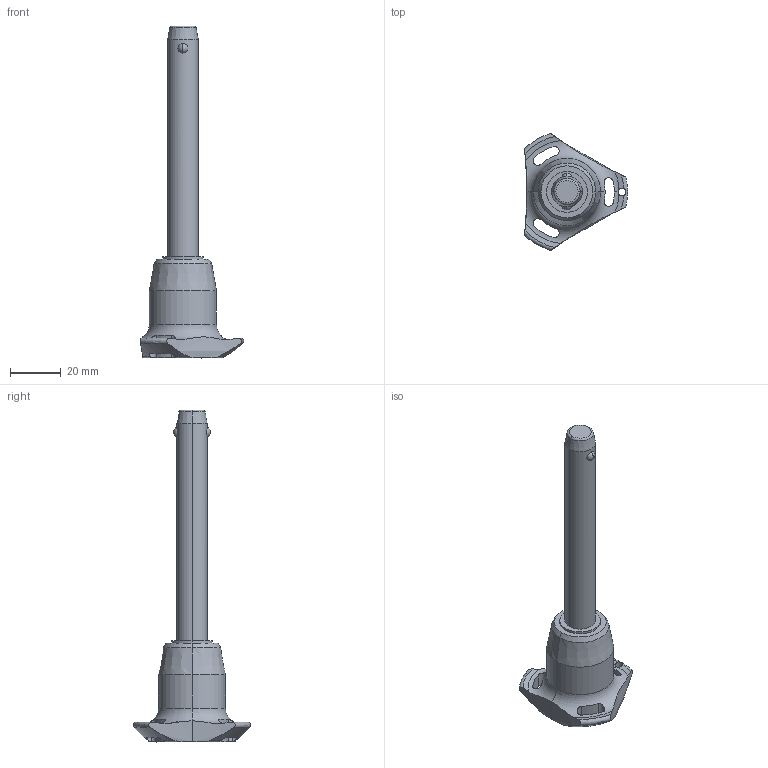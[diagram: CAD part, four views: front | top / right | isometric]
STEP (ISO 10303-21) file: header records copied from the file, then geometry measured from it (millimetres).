
FILE_DESCRIPTION (( 'STEP AP203' ), '1' );
FILE_NAME ('QR1724.M12-080-S.step', '2025-11-12T12:59:27', ( '' ), ( '' ), 'SwSTEP 2.0', 'SolidWorks 2019', '' );
FILE_SCHEMA (( 'CONFIG_CONTROL_DESIGN' ));
Length unit declared in the file: millimetre
Products named in the file (1): QR1724.M12-080-S
Bounding box: 40.5 x 45.88 x 130.3 mm (x, y, z)
Volume: 32183 mm3; surface area: 9353.5 mm2
Topology: 1 solids, 1 shells, 65 faces, 178 edges, 113 vertices
Faces by surface type: cylinder 30, cone 14, torus 11, sphere 6, plane 4
Entity records: 2862 total; most frequent: CARTESIAN_POINT 1173, ORIENTED_EDGE 356, DIRECTION 329, EDGE_CURVE 178, AXIS2_PLACEMENT_3D 147, VERTEX_POINT 113, CIRCLE 81, EDGE_LOOP 71
